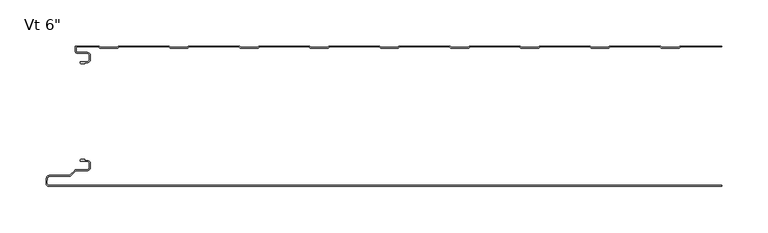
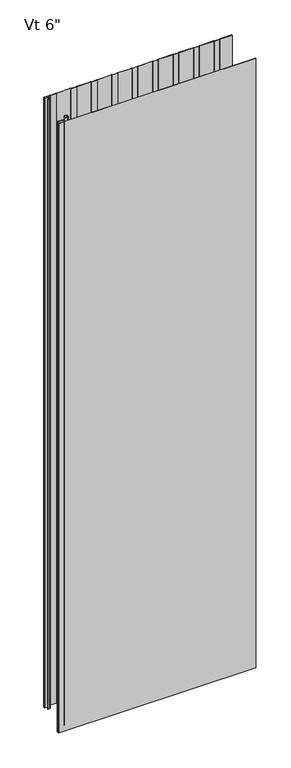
"""IFC4 building model written with IfcOpenShell, lengths in millimetres: plate geometry."""

from ifc_helpers import new_model, si_unit, point, frame, frame_2d, origin, origin_with_axes, place, context, project, spatial, polyline, circle_curve, trimmed, segment, composite_curve, outline, extrude, source, transform, mapped, element, save
from ifc_brep_helpers import plane_surface, cylinder_surface, revolved_surface, advanced_brep


def plate_cb222a85(model_context):
    return source(origin(), model_context, "Body", "SolidModel", [
        advanced_brep(
        [(-346.968691, -17.0015202, 2400.0), (-347.9686883, -18.0015234, 2400.0), (-346.968691, -19.0015147, 2400.0), (-342.9684874, -19.0015147, 2400.0), (-342.9684874, -18.0015202, 2400.0), (-340.2762776, -18.0015202, 2400.0), (-336.9762819, -14.7015245, 2400.0), (-336.9762819, -10.3015333, 2400.0), (-340.2762774, -7.0015378, 2400.0), (-350.6962563, -7.0015378, 2400.0), (-352.4662505, -5.2315436, 2400.0), (-352.4662505, -0.9999959, 2400.0), (-327.9659738, -0.9999959, 2400.0), (-326.5803312, -2.200235, 2400.0), (-307.2051649, -2.200235, 2400.0), (-305.819532, -1.0000043, 2400.0), (-251.7661166, -1.0000043, 2400.0), (-250.3804836, -2.200235, 2400.0), (-231.0053173, -2.200235, 2400.0), (-229.6196844, -1.0000043, 2400.0), (-175.566269, -1.0000043, 2400.0), (-174.180636, -2.200235, 2400.0), (-154.8054697, -2.200235, 2400.0), (-153.4198368, -1.0000043, 2400.0), (-99.3664214, -1.0000043, 2400.0), (-97.9807884, -2.200235, 2400.0), (-78.6056221, -2.200235, 2400.0), (-77.2199892, -1.0000043, 2400.0), (-23.1665738, -1.0000043, 2400.0), (-21.7809408, -2.200235, 2400.0), (-2.4057745, -2.200235, 2400.0), (-1.0201416, -1.0000043, 2400.0), (53.0332738, -1.0000043, 2400.0), (54.4189068, -2.200235, 2400.0), (73.7940731, -2.200235, 2400.0), (75.179706, -1.0000043, 2400.0), (129.2331214, -1.0000043, 2400.0), (130.6187544, -2.200235, 2400.0), (149.9939207, -2.200235, 2400.0), (151.3795536, -1.0000043, 2400.0), (205.432969, -1.0000043, 2400.0), (206.818602, -2.200235, 2400.0), (226.1937683, -2.200235, 2400.0), (227.5794012, -1.0000043, 2400.0), (281.6328166, -1.0000043, 2400.0), (283.0184496, -2.200235, 2400.0), (302.3936159, -2.200235, 2400.0), (303.7792488, -1.0000043, 2400.0), (348.9999998, -1.0000043, 2400.0), (348.9999998, -4.3e-06, 2400.0), (303.9284, -4.3e-06, 2400.0), (303.0117831, -0.3417928, 2400.0), (302.0207355, -1.200235, 2400.0), (283.39133, -1.200235, 2400.0), (282.4002824, -0.3417928, 2400.0), (281.4836655, -4.3e-06, 2400.0), (227.7285524, -4.3e-06, 2400.0), (226.8119355, -0.3417928, 2400.0), (225.8208879, -1.200235, 2400.0), (207.1914824, -1.200235, 2400.0), (206.2004348, -0.3417928, 2400.0), (205.2838179, -4.3e-06, 2400.0), (151.5287048, -4.3e-06, 2400.0), (150.6120879, -0.3417928, 2400.0), (149.6210403, -1.200235, 2400.0), (130.9916348, -1.200235, 2400.0), (130.0005872, -0.3417928, 2400.0), (129.0839703, -4.3e-06, 2400.0), (75.3288572, -4.3e-06, 2400.0), (74.4122403, -0.3417928, 2400.0), (73.4211927, -1.200235, 2400.0), (54.7917872, -1.200235, 2400.0), (53.8007396, -0.3417928, 2400.0), (52.8841227, -4.3e-06, 2400.0), (-0.8709904, -4.3e-06, 2400.0), (-1.7876073, -0.3417928, 2400.0), (-2.7786549, -1.200235, 2400.0), (-21.4080604, -1.200235, 2400.0), (-22.399108, -0.3417928, 2400.0), (-23.3157249, -4.3e-06, 2400.0), (-77.070838, -4.3e-06, 2400.0), (-77.9874549, -0.3417928, 2400.0), (-78.9785025, -1.200235, 2400.0), (-97.607908, -1.200235, 2400.0), (-98.5989556, -0.3417928, 2400.0), (-99.5155725, -4.3e-06, 2400.0), (-153.2706856, -4.3e-06, 2400.0), (-154.1873025, -0.3417928, 2400.0), (-155.1783501, -1.200235, 2400.0), (-173.8077556, -1.200235, 2400.0), (-174.7988032, -0.3417928, 2400.0), (-175.7154201, -4.3e-06, 2400.0), (-229.4705332, -4.3e-06, 2400.0), (-230.3871501, -0.3417928, 2400.0), (-231.3781977, -1.200235, 2400.0), (-250.0076032, -1.200235, 2400.0), (-250.9986508, -0.3417928, 2400.0), (-251.9152677, -4.3e-06, 2400.0), (-305.6703808, -4.3e-06, 2400.0), (-306.5869977, -0.3417928, 2400.0), (-307.5780453, -1.200235, 2400.0), (-326.2074508, -1.200235, 2400.0), (-327.1984984, -0.3417928, 2400.0), (-328.1152067, -4.3e-06, 2400.0), (-352.0662543, 4.1e-06, 2400.0), (-353.4662505, -1.3999921, 2400.0), (-353.4662505, -5.2315436, 2400.0), (-350.6962563, -8.0015378, 2400.0), (-340.2762774, -8.0015378, 2400.0), (-337.9762819, -10.3015333, 2400.0), (-337.9762819, -14.7015245, 2400.0), (-340.2762776, -17.0015202, 2400.0), (-346.968691, -17.0015202, 0.0), (-340.2762776, -17.0015202, 0.0), (-337.9762819, -14.7015245, 0.0), (-337.9762819, -10.3015333, 0.0), (-340.2762774, -8.0015378, 0.0), (-350.6962563, -8.0015378, 0.0), (-353.4662505, -5.2315436, 0.0), (-353.4662505, -1.3999921, 0.0), (-352.0662543, 4.1e-06, 0.0), (-328.1151153, 4.1e-06, 0.0), (-327.1984984, -0.3417928, 0.0), (-326.2074508, -1.200235, 0.0), (-307.5780453, -1.200235, 0.0), (-306.5869977, -0.3417928, 0.0), (-305.6703808, -4.3e-06, 0.0), (-251.9152677, -4.3e-06, 0.0), (-250.9986508, -0.3417928, 0.0), (-250.0076032, -1.200235, 0.0), (-231.3781977, -1.200235, 0.0), (-230.3871501, -0.3417928, 0.0), (-229.4705332, -4.3e-06, 0.0), (-175.7154201, -4.3e-06, 0.0), (-174.7988032, -0.3417928, 0.0), (-173.8077556, -1.200235, 0.0), (-155.1783501, -1.200235, 0.0), (-154.1873025, -0.3417928, 0.0), (-153.2706856, -4.3e-06, 0.0), (-99.5155725, -4.3e-06, 0.0), (-98.5989556, -0.3417928, 0.0), (-97.607908, -1.200235, 0.0), (-78.9785025, -1.200235, 0.0), (-77.9874549, -0.3417928, 0.0), (-77.070838, -4.3e-06, 0.0), (-23.3157249, -4.3e-06, 0.0), (-22.399108, -0.3417928, 0.0), (-21.4080604, -1.200235, 0.0), (-2.7786549, -1.200235, 0.0), (-1.7876073, -0.3417928, 0.0), (-0.8709904, -4.3e-06, 0.0), (52.8841227, -4.3e-06, 0.0), (53.8007396, -0.3417928, 0.0), (54.7917872, -1.200235, 0.0), (73.4211927, -1.200235, 0.0), (74.4122403, -0.3417928, 0.0), (75.3288572, -4.3e-06, 0.0), (129.0839703, -4.3e-06, 0.0), (130.0005872, -0.3417928, 0.0), (130.9916348, -1.200235, 0.0), (149.6210403, -1.200235, 0.0), (150.6120879, -0.3417928, 0.0), (151.5287048, -4.3e-06, 0.0), (205.2838179, -4.3e-06, 0.0), (206.2004348, -0.3417928, 0.0), (207.1914824, -1.200235, 0.0), (225.8208879, -1.200235, 0.0), (226.8119355, -0.3417928, 0.0), (227.7285524, -4.3e-06, 0.0), (281.4836655, -4.3e-06, 0.0), (282.4002824, -0.3417928, 0.0), (283.39133, -1.200235, 0.0), (302.0207355, -1.200235, 0.0), (303.0117831, -0.3417928, 0.0), (303.9284, -4.3e-06, 0.0), (348.9999998, -4.3e-06, 0.0), (348.9999998, -1.0000043, 0.0), (303.7792488, -1.0000043, 0.0), (302.3936159, -2.200235, 0.0), (283.0184496, -2.200235, 0.0), (281.6328166, -1.0000043, 0.0), (227.5794012, -1.0000043, 0.0), (226.1937683, -2.200235, 0.0), (206.818602, -2.200235, 0.0), (205.432969, -1.0000043, 0.0), (151.3795536, -1.0000043, 0.0), (149.9939207, -2.200235, 0.0), (130.6187544, -2.200235, 0.0), (129.2331214, -1.0000043, 0.0), (75.179706, -1.0000043, 0.0), (73.7940731, -2.200235, 0.0), (54.4189068, -2.200235, 0.0), (53.0332738, -1.0000043, 0.0), (-1.0201416, -1.0000043, 0.0), (-2.4057745, -2.200235, 0.0), (-21.7809408, -2.200235, 0.0), (-23.1665738, -1.0000043, 0.0), (-77.2199892, -1.0000043, 0.0), (-78.6056221, -2.200235, 0.0), (-97.9807884, -2.200235, 0.0), (-99.3664214, -1.0000043, 0.0), (-153.4198368, -1.0000043, 0.0), (-154.8054697, -2.200235, 0.0), (-174.180636, -2.200235, 0.0), (-175.566269, -1.0000043, 0.0), (-229.6196844, -1.0000043, 0.0), (-231.0053173, -2.200235, 0.0), (-250.3804836, -2.200235, 0.0), (-251.7661166, -1.0000043, 0.0), (-305.819532, -1.0000043, 0.0), (-307.2051649, -2.200235, 0.0), (-326.5803312, -2.200235, 0.0), (-327.9659738, -0.9999959, 0.0), (-352.4662505, -0.9999959, 0.0), (-352.4662505, -5.2315436, 0.0), (-350.6962563, -7.0015378, 0.0), (-340.2762774, -7.0015378, 0.0), (-336.9762819, -10.3015333, 0.0), (-336.9762819, -14.7015245, 0.0), (-340.2762776, -18.0015202, 0.0), (-342.9684874, -18.0015202, 0.0), (-342.9684874, -19.0015147, 0.0), (-346.968691, -19.0015147, 0.0), (-347.9686882, -18.0015235, 0.0)],
        [
            (0, 1, circle_curve(frame((-346.968691, -18.0015175, 2400.0), z_axis=(0.0, 0.0, 1.0), x_axis=(1.0, 0.0, 0.0)), 0.9999973)),
            (1, 2, circle_curve(frame((-346.968691, -18.0015175, 2400.0), z_axis=(0.0, 0.0, 1.0), x_axis=(1.0, 0.0, 0.0)), 0.9999972)),
            (2, 3),
            (3, 4),
            (4, 5),
            (5, 6, circle_curve(frame((-340.2762776, -14.7015245, 2400.0), z_axis=(0.0, 0.0, 1.0), x_axis=(1.0, 0.0, 0.0)), 3.2999957)),
            (6, 7),
            (7, 8, circle_curve(frame((-340.2762774, -10.3015333, 2400.0), z_axis=(0.0, 0.0, 1.0), x_axis=(1.0, 0.0, 0.0)), 3.2999955)),
            (8, 9),
            (9, 10, circle_curve(frame((-350.6962563, -5.2315436, 2400.0), z_axis=(0.0, 0.0, -1.0), x_axis=(1.0, 0.0, 0.0)), 1.7699942)),
            (10, 11),
            (11, 12),
            (12, 13),
            (13, 14),
            (14, 15),
            (15, 16),
            (16, 17),
            (17, 18),
            (18, 19),
            (19, 20),
            (20, 21),
            (21, 22),
            (22, 23),
            (23, 24),
            (24, 25),
            (25, 26),
            (26, 27),
            (27, 28),
            (28, 29),
            (29, 30),
            (30, 31),
            (31, 32),
            (32, 33),
            (33, 34),
            (34, 35),
            (35, 36),
            (36, 37),
            (37, 38),
            (38, 39),
            (39, 40),
            (40, 41),
            (41, 42),
            (42, 43),
            (43, 44),
            (44, 45),
            (45, 46),
            (46, 47),
            (47, 48),
            (48, 49),
            (49, 50),
            (50, 51, circle_curve(frame((303.9284, -1.4000015, 2400.0), z_axis=(0.0, 0.0, 1.0), x_axis=(1.0, 0.0, 0.0)), 1.3999972)),
            (51, 52),
            (52, 53),
            (53, 54),
            (54, 55, circle_curve(frame((281.4836655, -1.4000015, 2400.0), z_axis=(0.0, 0.0, 1.0), x_axis=(1.0, 0.0, 0.0)), 1.3999972)),
            (55, 56),
            (56, 57, circle_curve(frame((227.7285524, -1.4000015, 2400.0), z_axis=(0.0, 0.0, 1.0), x_axis=(1.0, 0.0, 0.0)), 1.3999972)),
            (57, 58),
            (58, 59),
            (59, 60),
            (60, 61, circle_curve(frame((205.2838179, -1.4000015, 2400.0), z_axis=(0.0, 0.0, 1.0), x_axis=(1.0, 0.0, 0.0)), 1.3999972)),
            (61, 62),
            (62, 63, circle_curve(frame((151.5287048, -1.4000015, 2400.0), z_axis=(0.0, 0.0, 1.0), x_axis=(1.0, 0.0, 0.0)), 1.3999972)),
            (63, 64),
            (64, 65),
            (65, 66),
            (66, 67, circle_curve(frame((129.0839703, -1.4000015, 2400.0), z_axis=(0.0, 0.0, 1.0), x_axis=(1.0, 0.0, 0.0)), 1.3999972)),
            (67, 68),
            (68, 69, circle_curve(frame((75.3288572, -1.4000015, 2400.0), z_axis=(0.0, 0.0, 1.0), x_axis=(1.0, 0.0, 0.0)), 1.3999972)),
            (69, 70),
            (70, 71),
            (71, 72),
            (72, 73, circle_curve(frame((52.8841227, -1.4000015, 2400.0), z_axis=(0.0, 0.0, 1.0), x_axis=(1.0, 0.0, 0.0)), 1.3999972)),
            (73, 74),
            (74, 75, circle_curve(frame((-0.8709904, -1.4000015, 2400.0), z_axis=(0.0, 0.0, 1.0), x_axis=(1.0, 0.0, 0.0)), 1.3999972)),
            (75, 76),
            (76, 77),
            (77, 78),
            (78, 79, circle_curve(frame((-23.3157249, -1.4000015, 2400.0), z_axis=(0.0, 0.0, 1.0), x_axis=(1.0, 0.0, 0.0)), 1.3999972)),
            (79, 80),
            (80, 81, circle_curve(frame((-77.070838, -1.4000015, 2400.0), z_axis=(0.0, 0.0, 1.0), x_axis=(1.0, 0.0, 0.0)), 1.3999972)),
            (81, 82),
            (82, 83),
            (83, 84),
            (84, 85, circle_curve(frame((-99.5155725, -1.4000015, 2400.0), z_axis=(0.0, 0.0, 1.0), x_axis=(1.0, 0.0, 0.0)), 1.3999972)),
            (85, 86),
            (86, 87, circle_curve(frame((-153.2706856, -1.4000015, 2400.0), z_axis=(0.0, 0.0, 1.0), x_axis=(1.0, 0.0, 0.0)), 1.3999972)),
            (87, 88),
            (88, 89),
            (89, 90),
            (90, 91, circle_curve(frame((-175.7154201, -1.4000015, 2400.0), z_axis=(0.0, 0.0, 1.0), x_axis=(1.0, 0.0, 0.0)), 1.3999972)),
            (91, 92),
            (92, 93, circle_curve(frame((-229.4705332, -1.4000015, 2400.0), z_axis=(0.0, 0.0, 1.0), x_axis=(1.0, 0.0, 0.0)), 1.3999972)),
            (93, 94),
            (94, 95),
            (95, 96),
            (96, 97, circle_curve(frame((-251.9152677, -1.4000015, 2400.0), z_axis=(0.0, 0.0, 1.0), x_axis=(1.0, 0.0, 0.0)), 1.3999972)),
            (97, 98),
            (98, 99, circle_curve(frame((-305.6703808, -1.4000015, 2400.0), z_axis=(0.0, 0.0, 1.0), x_axis=(1.0, 0.0, 0.0)), 1.3999972)),
            (99, 100),
            (100, 101),
            (101, 102),
            (102, 103, circle_curve(frame((-328.1151153, -1.4000015, 2400.0), z_axis=(0.0, 0.0, 1.0), x_axis=(1.0, 0.0, 0.0)), 1.3999972)),
            (103, 104),
            (104, 105, circle_curve(frame((-352.0662543, -1.3999921, 2400.0), z_axis=(0.0, 0.0, 1.0), x_axis=(1.0, 0.0, 0.0)), 1.3999962)),
            (105, 106),
            (106, 107, circle_curve(frame((-350.6962563, -5.2315436, 2400.0), z_axis=(0.0, 0.0, 1.0), x_axis=(1.0, 0.0, 0.0)), 2.7699942)),
            (107, 108),
            (108, 109, circle_curve(frame((-340.2762774, -10.3015333, 2400.0), z_axis=(0.0, 0.0, -1.0), x_axis=(1.0, 0.0, 0.0)), 2.2999955)),
            (109, 110),
            (110, 111, circle_curve(frame((-340.2762776, -14.7015245, 2400.0), z_axis=(0.0, 0.0, -1.0), x_axis=(1.0, 0.0, 0.0)), 2.2999957)),
            (111, 0),
            (112, 113),
            (113, 114, circle_curve(frame((-340.2762776, -14.7015245, 0.0), z_axis=(0.0, 0.0, 1.0), x_axis=(1.0, 0.0, 0.0)), 2.2999957)),
            (114, 115),
            (115, 116, circle_curve(frame((-340.2762774, -10.3015333, 0.0), z_axis=(0.0, 0.0, 1.0), x_axis=(1.0, 0.0, 0.0)), 2.2999955)),
            (116, 117),
            (117, 118, circle_curve(frame((-350.6962563, -5.2315436, 0.0), z_axis=(0.0, 0.0, -1.0), x_axis=(1.0, 0.0, 0.0)), 2.7699942)),
            (118, 119),
            (119, 120, circle_curve(frame((-352.0662543, -1.3999921, 0.0), z_axis=(0.0, 0.0, -1.0), x_axis=(1.0, 0.0, 0.0)), 1.3999962)),
            (120, 121),
            (121, 122, circle_curve(frame((-328.1151153, -1.4000015, 0.0), z_axis=(0.0, 0.0, -1.0), x_axis=(1.0, 0.0, 0.0)), 1.3999972)),
            (122, 123),
            (123, 124),
            (124, 125),
            (125, 126, circle_curve(frame((-305.6703808, -1.4000015, 0.0), z_axis=(0.0, 0.0, -1.0), x_axis=(1.0, 0.0, 0.0)), 1.3999972)),
            (126, 127),
            (127, 128, circle_curve(frame((-251.9152677, -1.4000015, 0.0), z_axis=(0.0, 0.0, -1.0), x_axis=(1.0, 0.0, 0.0)), 1.3999972)),
            (128, 129),
            (129, 130),
            (130, 131),
            (131, 132, circle_curve(frame((-229.4705332, -1.4000015, 0.0), z_axis=(0.0, 0.0, -1.0), x_axis=(1.0, 0.0, 0.0)), 1.3999972)),
            (132, 133),
            (133, 134, circle_curve(frame((-175.7154201, -1.4000015, 0.0), z_axis=(0.0, 0.0, -1.0), x_axis=(1.0, 0.0, 0.0)), 1.3999972)),
            (134, 135),
            (135, 136),
            (136, 137),
            (137, 138, circle_curve(frame((-153.2706856, -1.4000015, 0.0), z_axis=(0.0, 0.0, -1.0), x_axis=(1.0, 0.0, 0.0)), 1.3999972)),
            (138, 139),
            (139, 140, circle_curve(frame((-99.5155725, -1.4000015, 0.0), z_axis=(0.0, 0.0, -1.0), x_axis=(1.0, 0.0, 0.0)), 1.3999972)),
            (140, 141),
            (141, 142),
            (142, 143),
            (143, 144, circle_curve(frame((-77.070838, -1.4000015, 0.0), z_axis=(0.0, 0.0, -1.0), x_axis=(1.0, 0.0, 0.0)), 1.3999972)),
            (144, 145),
            (145, 146, circle_curve(frame((-23.3157249, -1.4000015, 0.0), z_axis=(0.0, 0.0, -1.0), x_axis=(1.0, 0.0, 0.0)), 1.3999972)),
            (146, 147),
            (147, 148),
            (148, 149),
            (149, 150, circle_curve(frame((-0.8709904, -1.4000015, 0.0), z_axis=(0.0, 0.0, -1.0), x_axis=(1.0, 0.0, 0.0)), 1.3999972)),
            (150, 151),
            (151, 152, circle_curve(frame((52.8841227, -1.4000015, 0.0), z_axis=(0.0, 0.0, -1.0), x_axis=(1.0, 0.0, 0.0)), 1.3999972)),
            (152, 153),
            (153, 154),
            (154, 155),
            (155, 156, circle_curve(frame((75.3288572, -1.4000015, 0.0), z_axis=(0.0, 0.0, -1.0), x_axis=(1.0, 0.0, 0.0)), 1.3999972)),
            (156, 157),
            (157, 158, circle_curve(frame((129.0839703, -1.4000015, 0.0), z_axis=(0.0, 0.0, -1.0), x_axis=(1.0, 0.0, 0.0)), 1.3999972)),
            (158, 159),
            (159, 160),
            (160, 161),
            (161, 162, circle_curve(frame((151.5287048, -1.4000015, 0.0), z_axis=(0.0, 0.0, -1.0), x_axis=(1.0, 0.0, 0.0)), 1.3999972)),
            (162, 163),
            (163, 164, circle_curve(frame((205.2838179, -1.4000015, 0.0), z_axis=(0.0, 0.0, -1.0), x_axis=(1.0, 0.0, 0.0)), 1.3999972)),
            (164, 165),
            (165, 166),
            (166, 167),
            (167, 168, circle_curve(frame((227.7285524, -1.4000015, 0.0), z_axis=(0.0, 0.0, -1.0), x_axis=(1.0, 0.0, 0.0)), 1.3999972)),
            (168, 169),
            (169, 170, circle_curve(frame((281.4836655, -1.4000015, 0.0), z_axis=(0.0, 0.0, -1.0), x_axis=(1.0, 0.0, 0.0)), 1.3999972)),
            (170, 171),
            (171, 172),
            (172, 173),
            (173, 174, circle_curve(frame((303.9284, -1.4000015, 0.0), z_axis=(0.0, 0.0, -1.0), x_axis=(1.0, 0.0, 0.0)), 1.3999972)),
            (174, 175),
            (175, 176),
            (176, 177),
            (177, 178),
            (178, 179),
            (179, 180),
            (180, 181),
            (181, 182),
            (182, 183),
            (183, 184),
            (184, 185),
            (185, 186),
            (186, 187),
            (187, 188),
            (188, 189),
            (189, 190),
            (190, 191),
            (191, 192),
            (192, 193),
            (193, 194),
            (194, 195),
            (195, 196),
            (196, 197),
            (197, 198),
            (198, 199),
            (199, 200),
            (200, 201),
            (201, 202),
            (202, 203),
            (203, 204),
            (204, 205),
            (205, 206),
            (206, 207),
            (207, 208),
            (208, 209),
            (209, 210),
            (210, 211),
            (211, 212),
            (212, 213),
            (213, 214),
            (214, 215, circle_curve(frame((-350.6962563, -5.2315436, 0.0), z_axis=(0.0, 0.0, 1.0), x_axis=(1.0, 0.0, 0.0)), 1.7699942)),
            (215, 216),
            (216, 217, circle_curve(frame((-340.2762774, -10.3015333, 0.0), z_axis=(0.0, 0.0, -1.0), x_axis=(1.0, 0.0, 0.0)), 3.2999955)),
            (217, 218),
            (218, 219, circle_curve(frame((-340.2762776, -14.7015245, 0.0), z_axis=(0.0, 0.0, -1.0), x_axis=(1.0, 0.0, 0.0)), 3.2999957)),
            (219, 220),
            (220, 221),
            (221, 222),
            (222, 223, circle_curve(frame((-346.968691, -18.0015175, 0.0), z_axis=(0.0, 0.0, -1.0), x_axis=(1.0, 0.0, 0.0)), 0.9999972)),
            (223, 112, circle_curve(frame((-346.968691, -18.0015175, 0.0), z_axis=(0.0, 0.0, -1.0), x_axis=(1.0, 0.0, 0.0)), 0.9999973)),
            (48, 176),
            (175, 49),
            (111, 113),
            (112, 0),
            (110, 114),
            (109, 115),
            (108, 116),
            (107, 117),
            (106, 118),
            (105, 119),
            (104, 120),
            (103, 121),
            (102, 122),
            (101, 123),
            (100, 124),
            (99, 125),
            (98, 126),
            (97, 127),
            (96, 128),
            (95, 129),
            (94, 130),
            (93, 131),
            (92, 132),
            (91, 133),
            (90, 134),
            (89, 135),
            (88, 136),
            (87, 137),
            (86, 138),
            (85, 139),
            (84, 140),
            (83, 141),
            (82, 142),
            (81, 143),
            (80, 144),
            (79, 145),
            (78, 146),
            (77, 147),
            (76, 148),
            (75, 149),
            (74, 150),
            (73, 151),
            (72, 152),
            (71, 153),
            (70, 154),
            (69, 155),
            (68, 156),
            (67, 157),
            (66, 158),
            (65, 159),
            (64, 160),
            (63, 161),
            (62, 162),
            (38, 186),
            (185, 39),
            (37, 187),
            (36, 188),
            (35, 189),
            (34, 190),
            (33, 191),
            (32, 192),
            (31, 193),
            (30, 194),
            (29, 195),
            (28, 196),
            (27, 197),
            (26, 198),
            (25, 199),
            (24, 200),
            (23, 201),
            (22, 202),
            (21, 203),
            (20, 204),
            (19, 205),
            (18, 206),
            (17, 207),
            (16, 208),
            (15, 209),
            (14, 210),
            (13, 211),
            (12, 212),
            (11, 213),
            (10, 214),
            (9, 215),
            (8, 216),
            (7, 217),
            (6, 218),
            (5, 219),
            (4, 220),
            (3, 221),
            (2, 222),
            (1, 223),
            (55, 169),
            (168, 56),
            (54, 170),
            (53, 171),
            (52, 172),
            (51, 173),
            (50, 174),
            (43, 181),
            (180, 44),
            (42, 182),
            (41, 183),
            (40, 184),
            (61, 163),
            (60, 164),
            (59, 165),
            (58, 166),
            (57, 167),
            (47, 177),
            (46, 178),
            (45, 179),
        ],
        [
            plane_surface(frame((32.0000002, -4.3e-06, 2400.0), z_axis=(0.0, 0.0, 1.0), x_axis=(0.0, 1.0, 0.0))),
            plane_surface(frame((32.0000002, -4.3e-06, 0.0), z_axis=(0.0, 0.0, -1.0), x_axis=(0.0, 1.0, 0.0))),
            plane_surface(frame((348.9999998, -162.4000043, 2400.0), z_axis=(1.0, 0.0, 0.0), x_axis=(0.0, 0.0, -1.0))),
            plane_surface(frame((-346.968691, -17.0015202, 2400.0), z_axis=(0.0, 1.0, 0.0), x_axis=(0.0, 0.0, -1.0))),
            revolved_surface(polyline([(-337.9762819, -14.7015245, 0.0), (-337.9762819, -14.7015245, 2400.0)]), (-340.2762776, -14.7015245, 2400.0), (0.0, 0.0, -1.0)),
            plane_surface(frame((-337.9762819, -14.7015245, 2400.0), z_axis=(-1.0, 0.0, 0.0), x_axis=(0.0, 0.0, -1.0))),
            revolved_surface(polyline([(-337.9762819, -10.3015333, 0.0), (-337.9762819, -10.3015333, 2400.0)]), (-340.2762774, -10.3015333, 2400.0), (0.0, 0.0, -1.0)),
            plane_surface(frame((-340.2762774, -8.0015378, 2400.0), z_axis=(0.0, -1.0, 0.0), x_axis=(0.0, 0.0, -1.0))),
            cylinder_surface(frame((-350.6962563, -5.2315436, 2400.0), z_axis=(0.0, 0.0, 1.0), x_axis=(1.0, 0.0, 0.0)), 2.7699942),
            plane_surface(frame((-353.4662505, -5.2315436, 2400.0), z_axis=(-1.0, 0.0, 0.0), x_axis=(0.0, 0.0, -1.0))),
            cylinder_surface(frame((-352.0662543, -1.3999921, 2400.0), z_axis=(0.0, 0.0, 1.0), x_axis=(1.0, 0.0, 0.0)), 1.3999962),
            plane_surface(frame((-352.0662543, 4.1e-06, 2400.0), z_axis=(0.0, 1.0, 0.0), x_axis=(0.0, 0.0, -1.0))),
            cylinder_surface(frame((-328.1151153, -1.4000015, 2400.0), z_axis=(0.0, 0.0, 1.0), x_axis=(1.0, 0.0, 0.0)), 1.3999972),
            plane_surface(frame((-327.1984984, -0.3417928, 2400.0), z_axis=(0.6547276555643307, 0.7558648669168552, 0.0), x_axis=(0.0, 0.0, -1.0))),
            plane_surface(frame((-316.8927481, -1.200235, 2400.0), z_axis=(0.0, 1.0, 0.0), x_axis=(0.0, 0.0, -1.0))),
            plane_surface(frame((-307.5780453, -1.200235, 2400.0), z_axis=(-0.6547276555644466, 0.7558648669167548, 0.0), x_axis=(0.0, 0.0, -1.0))),
            cylinder_surface(frame((-305.6703808, -1.4000015, 2400.0), z_axis=(0.0, 0.0, 1.0), x_axis=(1.0, 0.0, 0.0)), 1.3999972),
            plane_surface(frame((-305.6703808, -4.3e-06, 2400.0), z_axis=(0.0, 1.0, 0.0), x_axis=(0.0, 0.0, -1.0))),
            cylinder_surface(frame((-251.9152677, -1.4000015, 2400.0), z_axis=(0.0, 0.0, 1.0), x_axis=(1.0, 0.0, 0.0)), 1.3999972),
            plane_surface(frame((-250.9986508, -0.3417928, 2400.0), z_axis=(0.6547276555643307, 0.7558648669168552, 0.0), x_axis=(0.0, 0.0, -1.0))),
            plane_surface(frame((-240.6929005, -1.200235, 2400.0), z_axis=(0.0, 1.0, 0.0), x_axis=(0.0, 0.0, -1.0))),
            plane_surface(frame((-231.3781977, -1.200235, 2400.0), z_axis=(-0.6547276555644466, 0.7558648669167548, 0.0), x_axis=(0.0, 0.0, -1.0))),
            cylinder_surface(frame((-229.4705332, -1.4000015, 2400.0), z_axis=(0.0, 0.0, 1.0), x_axis=(1.0, 0.0, 0.0)), 1.3999972),
            plane_surface(frame((-229.4705332, -4.3e-06, 2400.0), z_axis=(0.0, 1.0, 0.0), x_axis=(0.0, 0.0, -1.0))),
            cylinder_surface(frame((-175.7154201, -1.4000015, 2400.0), z_axis=(0.0, 0.0, 1.0), x_axis=(1.0, 0.0, 0.0)), 1.3999972),
            plane_surface(frame((-174.7988032, -0.3417928, 2400.0), z_axis=(0.6547276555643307, 0.7558648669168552, 0.0), x_axis=(0.0, 0.0, -1.0))),
            plane_surface(frame((-164.4930529, -1.200235, 2400.0), z_axis=(0.0, 1.0, 0.0), x_axis=(0.0, 0.0, -1.0))),
            plane_surface(frame((-155.1783501, -1.200235, 2400.0), z_axis=(-0.6547276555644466, 0.7558648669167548, 0.0), x_axis=(0.0, 0.0, -1.0))),
            cylinder_surface(frame((-153.2706856, -1.4000015, 2400.0), z_axis=(0.0, 0.0, 1.0), x_axis=(1.0, 0.0, 0.0)), 1.3999972),
            plane_surface(frame((-153.2706856, -4.3e-06, 2400.0), z_axis=(0.0, 1.0, 0.0), x_axis=(0.0, 0.0, -1.0))),
            cylinder_surface(frame((-99.5155725, -1.4000015, 2400.0), z_axis=(0.0, 0.0, 1.0), x_axis=(1.0, 0.0, 0.0)), 1.3999972),
            plane_surface(frame((-98.5989556, -0.3417928, 2400.0), z_axis=(0.6547276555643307, 0.7558648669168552, 0.0), x_axis=(0.0, 0.0, -1.0))),
            plane_surface(frame((-88.2932053, -1.200235, 2400.0), z_axis=(0.0, 1.0, 0.0), x_axis=(0.0, 0.0, -1.0))),
            plane_surface(frame((-78.9785025, -1.200235, 2400.0), z_axis=(-0.6547276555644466, 0.7558648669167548, 0.0), x_axis=(0.0, 0.0, -1.0))),
            cylinder_surface(frame((-77.070838, -1.4000015, 2400.0), z_axis=(0.0, 0.0, 1.0), x_axis=(1.0, 0.0, 0.0)), 1.3999972),
            plane_surface(frame((-77.070838, -4.3e-06, 2400.0), z_axis=(0.0, 1.0, 0.0), x_axis=(0.0, 0.0, -1.0))),
            cylinder_surface(frame((-23.3157249, -1.4000015, 2400.0), z_axis=(0.0, 0.0, 1.0), x_axis=(1.0, 0.0, 0.0)), 1.3999972),
            plane_surface(frame((-22.399108, -0.3417928, 2400.0), z_axis=(0.6547276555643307, 0.7558648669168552, 0.0), x_axis=(0.0, 0.0, -1.0))),
            plane_surface(frame((-12.0933577, -1.200235, 2400.0), z_axis=(0.0, 1.0, 0.0), x_axis=(0.0, 0.0, -1.0))),
            plane_surface(frame((-2.7786549, -1.200235, 2400.0), z_axis=(-0.6547276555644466, 0.7558648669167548, 0.0), x_axis=(0.0, 0.0, -1.0))),
            cylinder_surface(frame((-0.8709904, -1.4000015, 2400.0), z_axis=(0.0, 0.0, 1.0), x_axis=(1.0, 0.0, 0.0)), 1.3999972),
            plane_surface(frame((-0.8709904, -4.3e-06, 2400.0), z_axis=(0.0, 1.0, 0.0), x_axis=(0.0, 0.0, -1.0))),
            cylinder_surface(frame((52.8841227, -1.4000015, 2400.0), z_axis=(0.0, 0.0, 1.0), x_axis=(1.0, 0.0, 0.0)), 1.3999972),
            plane_surface(frame((53.8007396, -0.3417928, 2400.0), z_axis=(0.6547276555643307, 0.7558648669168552, 0.0), x_axis=(0.0, 0.0, -1.0))),
            plane_surface(frame((64.1064899, -1.200235, 2400.0), z_axis=(0.0, 1.0, 0.0), x_axis=(0.0, 0.0, -1.0))),
            plane_surface(frame((73.4211927, -1.200235, 2400.0), z_axis=(-0.6547276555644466, 0.7558648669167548, 0.0), x_axis=(0.0, 0.0, -1.0))),
            cylinder_surface(frame((75.3288572, -1.4000015, 2400.0), z_axis=(0.0, 0.0, 1.0), x_axis=(1.0, 0.0, 0.0)), 1.3999972),
            plane_surface(frame((75.3288572, -4.3e-06, 2400.0), z_axis=(0.0, 1.0, 0.0), x_axis=(0.0, 0.0, -1.0))),
            cylinder_surface(frame((129.0839703, -1.4000015, 2400.0), z_axis=(0.0, 0.0, 1.0), x_axis=(1.0, 0.0, 0.0)), 1.3999972),
            plane_surface(frame((130.0005872, -0.3417928, 2400.0), z_axis=(0.6547276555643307, 0.7558648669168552, 0.0), x_axis=(0.0, 0.0, -1.0))),
            plane_surface(frame((140.3063375, -1.200235, 2400.0), z_axis=(0.0, 1.0, 0.0), x_axis=(0.0, 0.0, -1.0))),
            plane_surface(frame((149.6210403, -1.200235, 2400.0), z_axis=(-0.6547276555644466, 0.7558648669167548, 0.0), x_axis=(0.0, 0.0, -1.0))),
            cylinder_surface(frame((151.5287048, -1.4000015, 2400.0), z_axis=(0.0, 0.0, 1.0), x_axis=(1.0, 0.0, 0.0)), 1.3999972),
            plane_surface(frame((151.3795536, -1.0000043, 2400.0), z_axis=(0.6547276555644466, -0.7558648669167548, 0.0), x_axis=(0.0, 0.0, -1.0))),
            plane_surface(frame((149.9939207, -2.200235, 2400.0), z_axis=(0.0, -1.0, 0.0), x_axis=(0.0, 0.0, -1.0))),
            plane_surface(frame((130.6187544, -2.200235, 2400.0), z_axis=(-0.6547276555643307, -0.7558648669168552, 0.0), x_axis=(0.0, 0.0, -1.0))),
            plane_surface(frame((129.2331214, -1.0000043, 2400.0), z_axis=(0.0, -1.0, 0.0), x_axis=(0.0, 0.0, -1.0))),
            plane_surface(frame((75.179706, -1.0000043, 2400.0), z_axis=(0.6547276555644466, -0.7558648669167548, 0.0), x_axis=(0.0, 0.0, -1.0))),
            plane_surface(frame((73.7940731, -2.200235, 2400.0), z_axis=(0.0, -1.0, 0.0), x_axis=(0.0, 0.0, -1.0))),
            plane_surface(frame((54.4189068, -2.200235, 2400.0), z_axis=(-0.6547276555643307, -0.7558648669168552, 0.0), x_axis=(0.0, 0.0, -1.0))),
            plane_surface(frame((53.0332738, -1.0000043, 2400.0), z_axis=(0.0, -1.0, 0.0), x_axis=(0.0, 0.0, -1.0))),
            plane_surface(frame((-1.0201416, -1.0000043, 2400.0), z_axis=(0.6547276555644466, -0.7558648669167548, 0.0), x_axis=(0.0, 0.0, -1.0))),
            plane_surface(frame((-2.4057745, -2.200235, 2400.0), z_axis=(0.0, -1.0, 0.0), x_axis=(0.0, 0.0, -1.0))),
            plane_surface(frame((-21.7809408, -2.200235, 2400.0), z_axis=(-0.6547276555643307, -0.7558648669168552, 0.0), x_axis=(0.0, 0.0, -1.0))),
            plane_surface(frame((-23.1665738, -1.0000043, 2400.0), z_axis=(0.0, -1.0, 0.0), x_axis=(0.0, 0.0, -1.0))),
            plane_surface(frame((-77.2199892, -1.0000043, 2400.0), z_axis=(0.6547276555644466, -0.7558648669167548, 0.0), x_axis=(0.0, 0.0, -1.0))),
            plane_surface(frame((-78.6056221, -2.200235, 2400.0), z_axis=(0.0, -1.0, 0.0), x_axis=(0.0, 0.0, -1.0))),
            plane_surface(frame((-97.9807884, -2.200235, 2400.0), z_axis=(-0.6547276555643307, -0.7558648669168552, 0.0), x_axis=(0.0, 0.0, -1.0))),
            plane_surface(frame((-99.3664214, -1.0000043, 2400.0), z_axis=(0.0, -1.0, 0.0), x_axis=(0.0, 0.0, -1.0))),
            plane_surface(frame((-153.4198368, -1.0000043, 2400.0), z_axis=(0.6547276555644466, -0.7558648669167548, 0.0), x_axis=(0.0, 0.0, -1.0))),
            plane_surface(frame((-154.8054697, -2.200235, 2400.0), z_axis=(0.0, -1.0, 0.0), x_axis=(0.0, 0.0, -1.0))),
            plane_surface(frame((-174.180636, -2.200235, 2400.0), z_axis=(-0.6547276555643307, -0.7558648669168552, 0.0), x_axis=(0.0, 0.0, -1.0))),
            plane_surface(frame((-175.566269, -1.0000043, 2400.0), z_axis=(0.0, -1.0, 0.0), x_axis=(0.0, 0.0, -1.0))),
            plane_surface(frame((-229.6196844, -1.0000043, 2400.0), z_axis=(0.6547276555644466, -0.7558648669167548, 0.0), x_axis=(0.0, 0.0, -1.0))),
            plane_surface(frame((-231.0053173, -2.200235, 2400.0), z_axis=(0.0, -1.0, 0.0), x_axis=(0.0, 0.0, -1.0))),
            plane_surface(frame((-250.3804836, -2.200235, 2400.0), z_axis=(-0.6547276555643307, -0.7558648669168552, 0.0), x_axis=(0.0, 0.0, -1.0))),
            plane_surface(frame((-251.7661166, -1.0000043, 2400.0), z_axis=(0.0, -1.0, 0.0), x_axis=(0.0, 0.0, -1.0))),
            plane_surface(frame((-305.819532, -1.0000043, 2400.0), z_axis=(0.6547276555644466, -0.7558648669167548, 0.0), x_axis=(0.0, 0.0, -1.0))),
            plane_surface(frame((-307.2051649, -2.200235, 2400.0), z_axis=(0.0, -1.0, 0.0), x_axis=(0.0, 0.0, -1.0))),
            plane_surface(frame((-326.5803312, -2.200235, 2400.0), z_axis=(-0.6547276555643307, -0.7558648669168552, 0.0), x_axis=(0.0, 0.0, -1.0))),
            plane_surface(frame((-327.9659738, -0.9999959, 2400.0), z_axis=(0.0, -1.0, 0.0), x_axis=(0.0, 0.0, -1.0))),
            plane_surface(frame((-352.4662505, -0.9999959, 2400.0), z_axis=(1.0, 0.0, 0.0), x_axis=(0.0, 0.0, -1.0))),
            revolved_surface(polyline([(-348.92626210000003, -5.2315436, 0.0), (-348.92626210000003, -5.2315436, 2400.0)]), (-350.6962563, -5.2315436, 2400.0), (0.0, 0.0, -1.0)),
            plane_surface(frame((-350.6962563, -7.0015378, 2400.0), z_axis=(0.0, 1.0, 0.0), x_axis=(0.0, 0.0, -1.0))),
            cylinder_surface(frame((-340.2762774, -10.3015333, 2400.0), z_axis=(0.0, 0.0, 1.0), x_axis=(1.0, 0.0, 0.0)), 3.2999955),
            plane_surface(frame((-336.9762819, -10.3015333, 2400.0), z_axis=(1.0, 0.0, 0.0), x_axis=(0.0, 0.0, -1.0))),
            cylinder_surface(frame((-340.2762776, -14.7015245, 2400.0), z_axis=(0.0, 0.0, 1.0), x_axis=(1.0, 0.0, 0.0)), 3.2999957),
            plane_surface(frame((-340.2762776, -18.0015202, 2400.0), z_axis=(0.0, -1.0, 0.0), x_axis=(0.0, 0.0, -1.0))),
            plane_surface(frame((-342.9684874, -18.0015202, 2400.0), z_axis=(1.0, 0.0, 0.0), x_axis=(0.0, 0.0, -1.0))),
            plane_surface(frame((-342.9684874, -19.0015147, 2400.0), z_axis=(0.0, -1.0, 0.0), x_axis=(0.0, 0.0, -1.0))),
            cylinder_surface(frame((-346.968691, -18.0015175, 2400.0), z_axis=(0.0, 0.0, 1.0), x_axis=(1.0, 0.0, 0.0)), 0.9999972),
            cylinder_surface(frame((-346.968691, -18.0015175, 2400.0), z_axis=(0.0, 0.0, 1.0), x_axis=(1.0, 0.0, 0.0)), 0.9999973),
            plane_surface(frame((227.7285524, -4.3e-06, 2400.0), z_axis=(0.0, 1.0, 0.0), x_axis=(0.0, 0.0, -1.0))),
            cylinder_surface(frame((281.4836655, -1.4000015, 2400.0), z_axis=(0.0, 0.0, 1.0), x_axis=(1.0, 0.0, 0.0)), 1.3999972),
            plane_surface(frame((282.4002824, -0.3417928, 2400.0), z_axis=(0.6547276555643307, 0.7558648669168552, 0.0), x_axis=(0.0, 0.0, -1.0))),
            plane_surface(frame((292.7060327, -1.200235, 2400.0), z_axis=(0.0, 1.0, 0.0), x_axis=(0.0, 0.0, -1.0))),
            plane_surface(frame((302.0207355, -1.200235, 2400.0), z_axis=(-0.6547276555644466, 0.7558648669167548, 0.0), x_axis=(0.0, 0.0, -1.0))),
            cylinder_surface(frame((303.9284, -1.4000015, 2400.0), z_axis=(0.0, 0.0, 1.0), x_axis=(1.0, 0.0, 0.0)), 1.3999972),
            plane_surface(frame((303.9284, -4.3e-06, 2400.0), z_axis=(0.0, 1.0, 0.0), x_axis=(0.0, 0.0, -1.0))),
            plane_surface(frame((281.6328166, -1.0000043, 2400.0), z_axis=(0.0, -1.0, 0.0), x_axis=(0.0, 0.0, -1.0))),
            plane_surface(frame((227.5794012, -1.0000043, 2400.0), z_axis=(0.6547276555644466, -0.7558648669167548, 0.0), x_axis=(0.0, 0.0, -1.0))),
            plane_surface(frame((226.1937683, -2.200235, 2400.0), z_axis=(0.0, -1.0, 0.0), x_axis=(0.0, 0.0, -1.0))),
            plane_surface(frame((206.818602, -2.200235, 2400.0), z_axis=(-0.6547276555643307, -0.7558648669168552, 0.0), x_axis=(0.0, 0.0, -1.0))),
            plane_surface(frame((205.432969, -1.0000043, 2400.0), z_axis=(0.0, -1.0, 0.0), x_axis=(0.0, 0.0, -1.0))),
            plane_surface(frame((151.5287048, -4.3e-06, 2400.0), z_axis=(0.0, 1.0, 0.0), x_axis=(0.0, 0.0, -1.0))),
            cylinder_surface(frame((205.2838179, -1.4000015, 2400.0), z_axis=(0.0, 0.0, 1.0), x_axis=(1.0, 0.0, 0.0)), 1.3999972),
            plane_surface(frame((206.2004348, -0.3417928, 2400.0), z_axis=(0.6547276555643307, 0.7558648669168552, 0.0), x_axis=(0.0, 0.0, -1.0))),
            plane_surface(frame((216.5061851, -1.200235, 2400.0), z_axis=(0.0, 1.0, 0.0), x_axis=(0.0, 0.0, -1.0))),
            plane_surface(frame((225.8208879, -1.200235, 2400.0), z_axis=(-0.6547276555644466, 0.7558648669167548, 0.0), x_axis=(0.0, 0.0, -1.0))),
            cylinder_surface(frame((227.7285524, -1.4000015, 2400.0), z_axis=(0.0, 0.0, 1.0), x_axis=(1.0, 0.0, 0.0)), 1.3999972),
            plane_surface(frame((357.8326642, -1.0000043, 2400.0), z_axis=(0.0, -1.0, 0.0), x_axis=(0.0, 0.0, -1.0))),
            plane_surface(frame((303.7792488, -1.0000043, 2400.0), z_axis=(0.6547276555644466, -0.7558648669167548, 0.0), x_axis=(0.0, 0.0, -1.0))),
            plane_surface(frame((302.3936159, -2.200235, 2400.0), z_axis=(0.0, -1.0, 0.0), x_axis=(0.0, 0.0, -1.0))),
            plane_surface(frame((283.0184496, -2.200235, 2400.0), z_axis=(-0.6547276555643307, -0.7558648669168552, 0.0), x_axis=(0.0, 0.0, -1.0))),
        ],
        [
            (0, [[1, 2, 3, 4, 5, 6, 7, 8, 9, 10, 11, 12, 13, 14, 15, 16, 17, 18, 19, 20, 21, 22, 23, 24, 25, 26, 27, 28, 29, 30, 31, 32, 33, 34, 35, 36, 37, 38, 39, 40, 41, 42, 43, 44, 45, 46, 47, 48, 49, 50, 51, 52, 53, 54, 55, 56, 57, 58, 59, 60, 61, 62, 63, 64, 65, 66, 67, 68, 69, 70, 71, 72, 73, 74, 75, 76, 77, 78, 79, 80, 81, 82, 83, 84, 85, 86, 87, 88, 89, 90, 91, 92, 93, 94, 95, 96, 97, 98, 99, 100, 101, 102, 103, 104, 105, 106, 107, 108, 109, 110, 111, 112]]),
            (1, [[113, 114, 115, 116, 117, 118, 119, 120, 121, 122, 123, 124, 125, 126, 127, 128, 129, 130, 131, 132, 133, 134, 135, 136, 137, 138, 139, 140, 141, 142, 143, 144, 145, 146, 147, 148, 149, 150, 151, 152, 153, 154, 155, 156, 157, 158, 159, 160, 161, 162, 163, 164, 165, 166, 167, 168, 169, 170, 171, 172, 173, 174, 175, 176, 177, 178, 179, 180, 181, 182, 183, 184, 185, 186, 187, 188, 189, 190, 191, 192, 193, 194, 195, 196, 197, 198, 199, 200, 201, 202, 203, 204, 205, 206, 207, 208, 209, 210, 211, 212, 213, 214, 215, 216, 217, 218, 219, 220, 221, 222, 223, 224]]),
            (2, [[225, -176, 226, -49]]),
            (3, [[227, -113, 228, -112]]),
            (4, [[229, -114, -227, -111]]),
            (5, [[230, -115, -229, -110]]),
            (6, [[231, -116, -230, -109]]),
            (7, [[232, -117, -231, -108]]),
            (8, [[233, -118, -232, -107]]),
            (9, [[234, -119, -233, -106]]),
            (10, [[235, -120, -234, -105]]),
            (11, [[236, -121, -235, -104]]),
            (12, [[237, -122, -236, -103]]),
            (13, [[238, -123, -237, -102]]),
            (14, [[239, -124, -238, -101]]),
            (15, [[240, -125, -239, -100]]),
            (16, [[241, -126, -240, -99]]),
            (17, [[242, -127, -241, -98]]),
            (18, [[243, -128, -242, -97]]),
            (19, [[244, -129, -243, -96]]),
            (20, [[245, -130, -244, -95]]),
            (21, [[246, -131, -245, -94]]),
            (22, [[247, -132, -246, -93]]),
            (23, [[248, -133, -247, -92]]),
            (24, [[249, -134, -248, -91]]),
            (25, [[250, -135, -249, -90]]),
            (26, [[251, -136, -250, -89]]),
            (27, [[252, -137, -251, -88]]),
            (28, [[253, -138, -252, -87]]),
            (29, [[254, -139, -253, -86]]),
            (30, [[255, -140, -254, -85]]),
            (31, [[256, -141, -255, -84]]),
            (32, [[257, -142, -256, -83]]),
            (33, [[258, -143, -257, -82]]),
            (34, [[259, -144, -258, -81]]),
            (35, [[260, -145, -259, -80]]),
            (36, [[261, -146, -260, -79]]),
            (37, [[262, -147, -261, -78]]),
            (38, [[263, -148, -262, -77]]),
            (39, [[264, -149, -263, -76]]),
            (40, [[265, -150, -264, -75]]),
            (41, [[266, -151, -265, -74]]),
            (42, [[267, -152, -266, -73]]),
            (43, [[268, -153, -267, -72]]),
            (44, [[269, -154, -268, -71]]),
            (45, [[270, -155, -269, -70]]),
            (46, [[271, -156, -270, -69]]),
            (47, [[272, -157, -271, -68]]),
            (48, [[273, -158, -272, -67]]),
            (49, [[274, -159, -273, -66]]),
            (50, [[275, -160, -274, -65]]),
            (51, [[276, -161, -275, -64]]),
            (52, [[277, -162, -276, -63]]),
            (53, [[278, -186, 279, -39]]),
            (54, [[280, -187, -278, -38]]),
            (55, [[281, -188, -280, -37]]),
            (56, [[282, -189, -281, -36]]),
            (57, [[283, -190, -282, -35]]),
            (58, [[284, -191, -283, -34]]),
            (59, [[285, -192, -284, -33]]),
            (60, [[286, -193, -285, -32]]),
            (61, [[287, -194, -286, -31]]),
            (62, [[288, -195, -287, -30]]),
            (63, [[289, -196, -288, -29]]),
            (64, [[290, -197, -289, -28]]),
            (65, [[291, -198, -290, -27]]),
            (66, [[292, -199, -291, -26]]),
            (67, [[293, -200, -292, -25]]),
            (68, [[294, -201, -293, -24]]),
            (69, [[295, -202, -294, -23]]),
            (70, [[296, -203, -295, -22]]),
            (71, [[297, -204, -296, -21]]),
            (72, [[298, -205, -297, -20]]),
            (73, [[299, -206, -298, -19]]),
            (74, [[300, -207, -299, -18]]),
            (75, [[301, -208, -300, -17]]),
            (76, [[302, -209, -301, -16]]),
            (77, [[303, -210, -302, -15]]),
            (78, [[304, -211, -303, -14]]),
            (79, [[305, -212, -304, -13]]),
            (80, [[306, -213, -305, -12]]),
            (81, [[307, -214, -306, -11]]),
            (82, [[308, -215, -307, -10]]),
            (83, [[309, -216, -308, -9]]),
            (84, [[310, -217, -309, -8]]),
            (85, [[311, -218, -310, -7]]),
            (86, [[312, -219, -311, -6]]),
            (87, [[313, -220, -312, -5]]),
            (88, [[314, -221, -313, -4]]),
            (89, [[315, -222, -314, -3]]),
            (90, [[316, -223, -315, -2]]),
            (91, [[-228, -224, -316, -1]]),
            (92, [[317, -169, 318, -56]]),
            (93, [[319, -170, -317, -55]]),
            (94, [[320, -171, -319, -54]]),
            (95, [[321, -172, -320, -53]]),
            (96, [[322, -173, -321, -52]]),
            (97, [[323, -174, -322, -51]]),
            (98, [[-50, -226, -175, -323]]),
            (99, [[324, -181, 325, -44]]),
            (100, [[326, -182, -324, -43]]),
            (101, [[327, -183, -326, -42]]),
            (102, [[328, -184, -327, -41]]),
            (103, [[-279, -185, -328, -40]]),
            (104, [[329, -163, -277, -62]]),
            (105, [[330, -164, -329, -61]]),
            (106, [[331, -165, -330, -60]]),
            (107, [[332, -166, -331, -59]]),
            (108, [[333, -167, -332, -58]]),
            (109, [[-318, -168, -333, -57]]),
            (110, [[-177, -225, -48, 334]]),
            (111, [[335, -178, -334, -47]]),
            (112, [[336, -179, -335, -46]]),
            (113, [[-325, -180, -336, -45]]),
        ],
    ),
        extrude(outline(composite_curve([segment(polyline([(-385.0087548, -148.5184134), (-384.5690674, -143.494448)]), True, "CONTINUOUS"), segment(trimmed(circle_curve(frame_2d((-380.9198391, -144.1052491)), 3.6999926), [point((-384.5690674, -143.494448))], [point((-380.9198391, -140.4052565))], False, "CARTESIAN"), True, "CONTINUOUS"), segment(polyline([(-380.9198391, -140.4052565), (-359.7773995, -140.4052565)]), True, "CONTINUOUS"), segment(trimmed(circle_curve(frame_2d((-359.7773995, -139.1052591)), 1.2999974), [point((-359.7773995, -140.4052565))], [point((-358.8581626, -140.0244961))], True, "CARTESIAN"), True, "CONTINUOUS"), segment(polyline([(-358.8581626, -140.0244961), (-354.0297451, -135.1960786)]), True, "CONTINUOUS"), segment(trimmed(circle_curve(frame_2d((-352.1205606, -137.1052631)), 2.6999946), [point((-354.0297451, -135.1960786))], [point((-352.1205606, -134.4052685))], False, "CARTESIAN"), True, "CONTINUOUS"), segment(polyline([(-352.1205606, -134.4052685), (-340.3096715, -134.4052685)]), True, "CONTINUOUS"), segment(trimmed(circle_curve(frame_2d((-340.3096715, -132.0552732)), 2.3499953), [point((-340.3096715, -134.4052685))], [point((-337.9596762, -132.0552732))], True, "CARTESIAN"), True, "CONTINUOUS"), segment(polyline([(-337.9596762, -132.0552732), (-337.9596762, -127.655282)]), True, "CONTINUOUS"), segment(trimmed(circle_curve(frame_2d((-340.3096715, -127.655282)), 2.3499953), [point((-337.9596762, -127.655282))], [point((-340.3096715, -125.3052867))], True, "CARTESIAN"), True, "CONTINUOUS"), segment(polyline([(-340.3096715, -125.3052867), (-346.8289777, -125.3052867)]), True, "CONTINUOUS"), segment(trimmed(circle_curve(frame_2d((-346.7686906, -124.1068044)), 1.1999976), [point((-346.8289777, -125.3052867))], [point((-347.9683, -124.0762825))], False, "CARTESIAN"), True, "CONTINUOUS"), segment(trimmed(circle_curve(frame_2d((-346.7686906, -124.1068044)), 1.1999976), [point((-347.9683, -124.0762825))], [point((-346.767176, -122.9068078))], False, "CARTESIAN"), True, "CONTINUOUS"), segment(polyline([(-346.767176, -122.9068078), (-343.0087826, -122.9068078), (-343.0087826, -124.3052867), (-340.3096715, -124.3052867)]), True, "CONTINUOUS"), segment(trimmed(circle_curve(frame_2d((-340.3096715, -127.655282)), 3.3499953), [point((-340.3096715, -124.3052867))], [point((-336.9596762, -127.655282))], False, "CARTESIAN"), True, "CONTINUOUS"), segment(polyline([(-336.9596762, -127.655282), (-336.9596762, -132.0552732)]), True, "CONTINUOUS"), segment(trimmed(circle_curve(frame_2d((-340.3096715, -132.0552732)), 3.3499953), [point((-336.9596762, -132.0552732))], [point((-340.3096715, -135.4052685))], False, "CARTESIAN"), True, "CONTINUOUS"), segment(polyline([(-340.3096715, -135.4052685), (-352.1205606, -135.4052685)]), True, "CONTINUOUS"), segment(trimmed(circle_curve(frame_2d((-352.1205606, -137.1052631)), 1.6999946), [point((-352.1205606, -135.4052685))], [point((-353.3226383, -135.9031854))], True, "CARTESIAN"), True, "CONTINUOUS"), segment(polyline([(-353.3226383, -135.9031854), (-358.8247094, -141.4052565), (-380.9198391, -141.4052565)]), True, "CONTINUOUS"), segment(trimmed(circle_curve(frame_2d((-380.9198391, -144.1052491)), 2.6999926), [point((-380.9198391, -141.4052565))], [point((-383.5765707, -143.6238585))], True, "CARTESIAN"), True, "CONTINUOUS"), segment(polyline([(-383.5765707, -143.6238585), (-384.0125697, -148.6056793)]), True, "CONTINUOUS"), segment(trimmed(circle_curve(frame_2d((-381.4521175, -148.829765)), 2.5702393), [point((-384.0125697, -148.6056793))], [point((-381.5094458, -151.3993649))], True, "CARTESIAN"), True, "CONTINUOUS"), segment(polyline([(-381.5094458, -151.3993649), (348.9999998, -151.3993649), (348.9999998, -152.399456), (-381.4521081, -152.3999231)]), True, "CONTINUOUS"), segment(trimmed(circle_curve(frame_2d((-381.4521104, -148.8296838)), 3.5702393), [point((-381.4521081, -152.3999231))], [point((-385.0087548, -148.5184134))], False, "CARTESIAN"), True, "CONTINUOUS")], self_intersect=False)), origin_with_axes(), (0.0, 0.0, 1.0), 2400.0),
    ])


if __name__ == "__main__":
    model = new_model("IFC4")
    model_context = context("Model", 3, world=origin())
    ifc_project = project(units=[si_unit("LENGTHUNIT", "METRE", prefix="MILLI")], contexts=[model_context])
    site = spatial("IfcSite", under=ifc_project)
    building = spatial("IfcBuilding", under=site)
    placement = place(None, origin())
    plate_shape = plate_cb222a85(model_context)
    element("IfcPlate", 1, ObjectType="KIP-30-Karrier-KP-R19-CP-Vt-FL3-8_SL : Vt 6\"", at=placement, inside=building, context=model_context, shape_type="MappedRepresentation", body=[
        mapped(plate_shape, transform((0.0, 0.0, 0.0), x_axis=(1.0, 0.0, 0.0), y_axis=(0.0, 1.0, 0.0), z_axis=(0.0, 0.0, 1.0))),
    ])
    save(model, "model.ifc")
